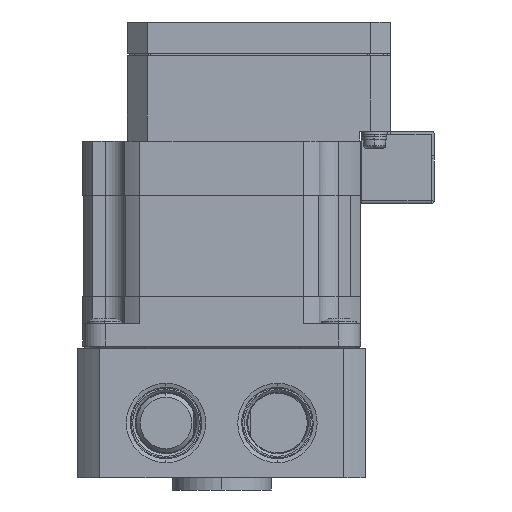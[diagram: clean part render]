
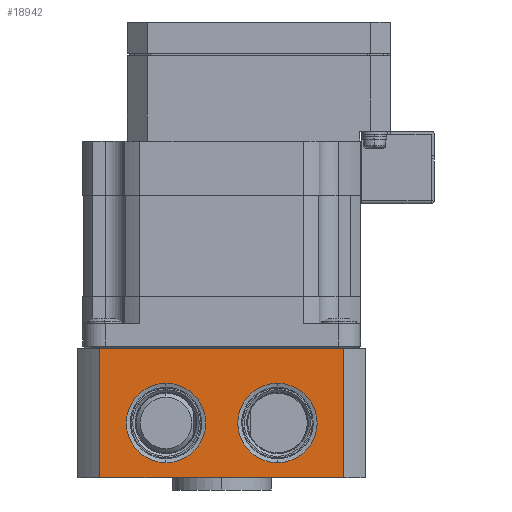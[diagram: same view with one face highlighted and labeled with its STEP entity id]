
A CAD part, front view. The second image highlights one B-rep face of the part: STEP entity #18942.
In plain terms, the highlighted planar face has unit normal (0, -1, 0).
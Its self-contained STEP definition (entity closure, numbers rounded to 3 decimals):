
#3173 = ORIENTED_EDGE ( 'NONE', *, *, #21908, .T. ) ;
#3175 = ORIENTED_EDGE ( 'NONE', *, *, #21904, .T. ) ;
#3177 = ORIENTED_EDGE ( 'NONE', *, *, #21903, .F. ) ;
#3179 = ORIENTED_EDGE ( 'NONE', *, *, #21902, .F. ) ;
#3181 = ORIENTED_EDGE ( 'NONE', *, *, #22129, .T. ) ;
#3183 = ORIENTED_EDGE ( 'NONE', *, *, #21900, .T. ) ;
#3185 = ORIENTED_EDGE ( 'NONE', *, *, #21897, .F. ) ;
#3186 = ORIENTED_EDGE ( 'NONE', *, *, #20037, .F. ) ;
#3557 = CIRCLE ( 'NONE', #3562, 8. ) ;
#3562 = AXIS2_PLACEMENT_3D ( 'NONE', #6686, #6688, #6690 ) ;
#3565 = CIRCLE ( 'NONE', #3568, 8. ) ;
#3567 = VECTOR ( 'NONE', #6734, 1000. ) ;
#3568 = AXIS2_PLACEMENT_3D ( 'NONE', #6712, #6714, #6716 ) ;
#3569 = VECTOR ( 'NONE', #6728, 1000. ) ;
#3572 = VECTOR ( 'NONE', #6742, 1000. ) ;
#3577 = VECTOR ( 'NONE', #6771, 1000. ) ;
#3895 = CIRCLE ( 'NONE', #3898, 8. ) ;
#3898 = AXIS2_PLACEMENT_3D ( 'NONE', #7829, #7830, #7831 ) ;
#6686 = CARTESIAN_POINT ( 'NONE',  ( 11.23, -29., -20. ) ) ;
#6688 = DIRECTION ( 'NONE',  ( 0., -1., 0. ) ) ;
#6690 = DIRECTION ( 'NONE',  ( 1., 0., 0. ) ) ;
#6692 = LINE ( 'NONE', #6709, #3569 ) ;
#6709 = CARTESIAN_POINT ( 'NONE',  ( -24.556, -29., -31. ) ) ;
#6712 = CARTESIAN_POINT ( 'NONE',  ( -11.23, -29., -20. ) ) ;
#6714 = DIRECTION ( 'NONE',  ( 0., 1., 0. ) ) ;
#6716 = DIRECTION ( 'NONE',  ( -1., 0., 0. ) ) ;
#6719 = LINE ( 'NONE', #6730, #3567 ) ;
#6728 = DIRECTION ( 'NONE',  ( 0., 0., 1. ) ) ;
#6730 = CARTESIAN_POINT ( 'NONE',  ( -24.556, -29., -5. ) ) ;
#6734 = DIRECTION ( 'NONE',  ( 1., 0., 0. ) ) ;
#6736 = LINE ( 'NONE', #6740, #3572 ) ;
#6740 = CARTESIAN_POINT ( 'NONE',  ( 24.556, -29., -31. ) ) ;
#6742 = DIRECTION ( 'NONE',  ( 0., 0., 1. ) ) ;
#6744 = CARTESIAN_POINT ( 'NONE',  ( -24.556, -29., -31. ) ) ;
#6756 = LINE ( 'NONE', #6744, #3577 ) ;
#6771 = DIRECTION ( 'NONE',  ( 1., 0., 0. ) ) ;
#7829 = CARTESIAN_POINT ( 'NONE',  ( -11.23, -29., -20. ) ) ;
#7830 = DIRECTION ( 'NONE',  ( 0., 1., 0. ) ) ;
#7831 = DIRECTION ( 'NONE',  ( -1., 0., 0. ) ) ;
#12692 = CARTESIAN_POINT ( 'NONE',  ( 11.23, -29., -12. ) ) ;
#12700 = CARTESIAN_POINT ( 'NONE',  ( 11.23, -29., -28. ) ) ;
#12705 = CARTESIAN_POINT ( 'NONE',  ( -11.23, -29., -28. ) ) ;
#12721 = CARTESIAN_POINT ( 'NONE',  ( -11.23, -29., -12. ) ) ;
#14017 = VERTEX_POINT ( 'NONE', #27014 ) ;
#15521 = VERTEX_POINT ( 'NONE', #27552 ) ;
#15528 = VERTEX_POINT ( 'NONE', #27559 ) ;
#15529 = VERTEX_POINT ( 'NONE', #27560 ) ;
#18942 = ADVANCED_FACE ( 'NONE', ( #36569, #36571, #36572 ), #36573, .T. ) ;
#20037 = EDGE_CURVE ( 'NONE', #38519, #38507, #40415, .T. ) ;
#21897 = EDGE_CURVE ( 'NONE', #38507, #38519, #3557, .T. ) ;
#21900 = EDGE_CURVE ( 'NONE', #38528, #38603, #3565, .T. ) ;
#21902 = EDGE_CURVE ( 'NONE', #15529, #14017, #6692, .T. ) ;
#21903 = EDGE_CURVE ( 'NONE', #14017, #15528, #6719, .T. ) ;
#21904 = EDGE_CURVE ( 'NONE', #15521, #15528, #6736, .T. ) ;
#21908 = EDGE_CURVE ( 'NONE', #15529, #15521, #6756, .T. ) ;
#22129 = EDGE_CURVE ( 'NONE', #38603, #38528, #3895, .T. ) ;
#24727 = EDGE_LOOP ( 'NONE', ( #3181, #3183 ) ) ;
#24733 = EDGE_LOOP ( 'NONE', ( #3173, #3175, #3177, #3179 ) ) ;
#24734 = EDGE_LOOP ( 'NONE', ( #3185, #3186 ) ) ;
#27014 = CARTESIAN_POINT ( 'NONE',  ( -24.556, -29., -5. ) ) ;
#27552 = CARTESIAN_POINT ( 'NONE',  ( 24.556, -29., -31. ) ) ;
#27559 = CARTESIAN_POINT ( 'NONE',  ( 24.556, -29., -5. ) ) ;
#27560 = CARTESIAN_POINT ( 'NONE',  ( -24.556, -29., -31. ) ) ;
#35098 = AXIS2_PLACEMENT_3D ( 'NONE', #36568, #36551, #36575 ) ;
#36551 = DIRECTION ( 'NONE',  ( 0., -1., 0. ) ) ;
#36568 = CARTESIAN_POINT ( 'NONE',  ( -24.556, -29., -31. ) ) ;
#36569 = FACE_OUTER_BOUND ( 'NONE', #24733, .T. ) ;
#36571 = FACE_BOUND ( 'NONE', #24727, .T. ) ;
#36572 = FACE_BOUND ( 'NONE', #24734, .T. ) ;
#36573 = PLANE ( 'NONE',  #35098 ) ;
#36575 = DIRECTION ( 'NONE',  ( -1., 0., 0. ) ) ;
#38507 = VERTEX_POINT ( 'NONE', #12692 ) ;
#38519 = VERTEX_POINT ( 'NONE', #12700 ) ;
#38528 = VERTEX_POINT ( 'NONE', #12705 ) ;
#38603 = VERTEX_POINT ( 'NONE', #12721 ) ;
#40415 = CIRCLE ( 'NONE', #40420, 8. ) ;
#40420 = AXIS2_PLACEMENT_3D ( 'NONE', #43114, #43115, #43116 ) ;
#43114 = CARTESIAN_POINT ( 'NONE',  ( 11.23, -29., -20. ) ) ;
#43115 = DIRECTION ( 'NONE',  ( 0., -1., 0. ) ) ;
#43116 = DIRECTION ( 'NONE',  ( 1., 0., 0. ) ) ;
